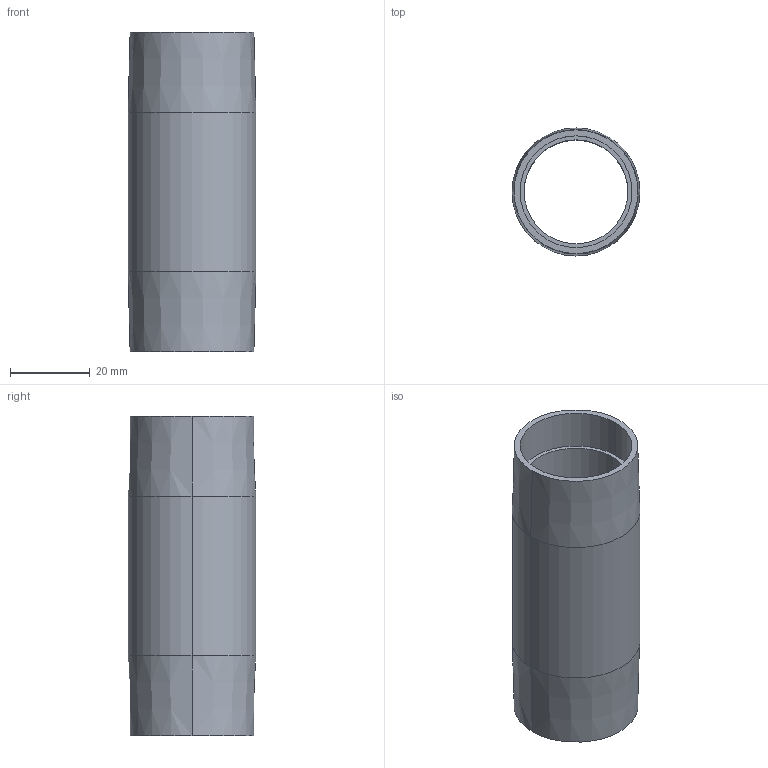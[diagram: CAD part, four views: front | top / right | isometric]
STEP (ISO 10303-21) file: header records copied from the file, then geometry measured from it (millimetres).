
FILE_DESCRIPTION (( 'STEP AP214' ), '1' );
FILE_NAME ('084.030.115.STEP', '2021-02-05T15:36:04', ( '' ), ( '' ), 'SwSTEP 2.0', 'SolidWorks 2018', '' );
FILE_SCHEMA (( 'AUTOMOTIVE_DESIGN' ));
Length unit declared in the file: millimetre
Products named in the file (1): 084.030.115
Bounding box: 32 x 32 x 80 mm (x, y, z)
Volume: 19174.2 mm3; surface area: 15088.7 mm2
Topology: 1 solids, 1 shells, 16 faces, 32 edges, 20 vertices
Faces by surface type: cylinder 8, cone 4, plane 4
Entity records: 462 total; most frequent: DIRECTION 86, CARTESIAN_POINT 69, ORIENTED_EDGE 64, AXIS2_PLACEMENT_3D 37, EDGE_CURVE 32, EDGE_LOOP 20, CIRCLE 20, VERTEX_POINT 20
